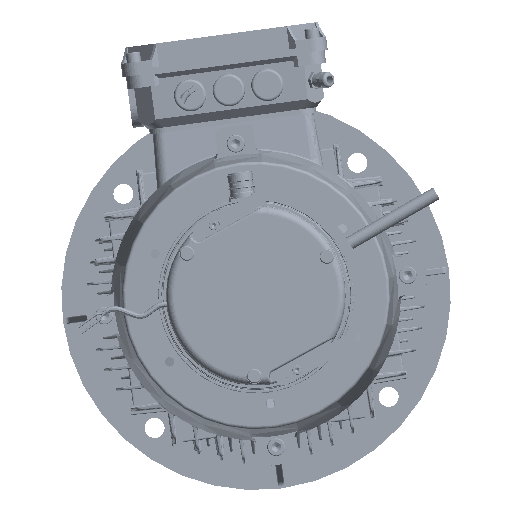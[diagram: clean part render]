
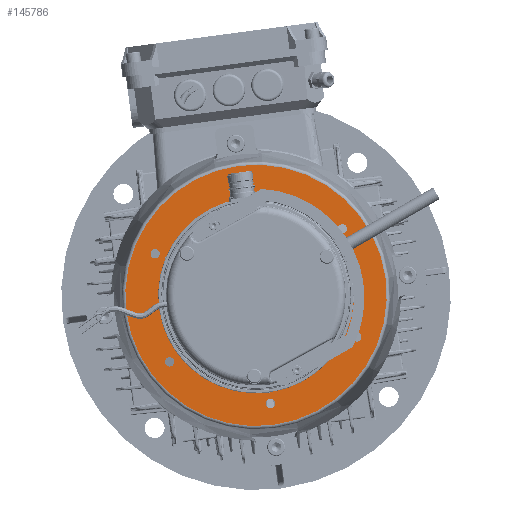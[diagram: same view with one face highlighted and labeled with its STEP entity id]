
A CAD part, front view. The second image highlights one B-rep face of the part: STEP entity #145786.
In plain terms, the highlighted planar face has unit normal (0, -1, 0).
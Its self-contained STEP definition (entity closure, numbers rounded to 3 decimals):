
#12725=FACE_BOUND('',#40017,.T.);
#12726=FACE_BOUND('',#40018,.T.);
#12727=FACE_BOUND('',#40019,.T.);
#12728=FACE_BOUND('',#40020,.T.);
#12729=FACE_BOUND('',#40021,.T.);
#12730=FACE_BOUND('',#40022,.T.);
#12731=FACE_BOUND('',#40023,.T.);
#14454=LINE('',#212061,#22704);
#22704=VECTOR('',#171720,10.);
#31205=FACE_OUTER_BOUND('',#40016,.T.);
#40016=EDGE_LOOP('',(#98062));
#40017=EDGE_LOOP('',(#98063));
#40018=EDGE_LOOP('',(#98064));
#40019=EDGE_LOOP('',(#98065));
#40020=EDGE_LOOP('',(#98066));
#40021=EDGE_LOOP('',(#98067));
#40022=EDGE_LOOP('',(#98068));
#40023=EDGE_LOOP('',(#98069,#98070,#98071,#98072,#98073,#98074,#98075,#98076));
#48887=CIRCLE('',#155788,87.5);
#48888=CIRCLE('',#155789,87.5);
#48889=CIRCLE('',#155790,87.5);
#48890=CIRCLE('',#155791,87.5);
#48905=CIRCLE('',#155816,117.419);
#48906=CIRCLE('',#155817,4.188);
#48907=CIRCLE('',#155818,4.188);
#48908=CIRCLE('',#155819,4.188);
#48909=CIRCLE('',#155820,4.188);
#48910=CIRCLE('',#155821,4.188);
#48911=CIRCLE('',#155822,4.188);
#48912=CIRCLE('',#155823,3.324);
#48913=CIRCLE('',#155824,3.324);
#48914=CIRCLE('',#155825,3.324);
#55696=VERTEX_POINT('',#212056);
#55697=VERTEX_POINT('',#212060);
#56807=VERTEX_POINT('',#282175);
#56810=VERTEX_POINT('',#282180);
#56812=VERTEX_POINT('',#282185);
#56813=VERTEX_POINT('',#282187);
#56815=VERTEX_POINT('',#282193);
#56818=VERTEX_POINT('',#282198);
#56838=VERTEX_POINT('',#282412);
#56839=VERTEX_POINT('',#282414);
#56840=VERTEX_POINT('',#282416);
#56841=VERTEX_POINT('',#282418);
#56842=VERTEX_POINT('',#282420);
#56843=VERTEX_POINT('',#282422);
#56844=VERTEX_POINT('',#282424);
#70054=EDGE_CURVE('',#55697,#55696,#14454,.T.);
#71824=EDGE_CURVE('',#56813,#55697,#48887,.T.);
#71825=EDGE_CURVE('',#56815,#56812,#48888,.T.);
#71826=EDGE_CURVE('',#56807,#56818,#48889,.T.);
#71827=EDGE_CURVE('',#55696,#56810,#48890,.T.);
#71847=EDGE_CURVE('',#56838,#56838,#48905,.T.);
#71848=EDGE_CURVE('',#56839,#56839,#48906,.T.);
#71849=EDGE_CURVE('',#56840,#56840,#48907,.T.);
#71850=EDGE_CURVE('',#56841,#56841,#48908,.T.);
#71851=EDGE_CURVE('',#56842,#56842,#48909,.T.);
#71852=EDGE_CURVE('',#56843,#56843,#48910,.T.);
#71853=EDGE_CURVE('',#56844,#56844,#48911,.T.);
#71854=EDGE_CURVE('',#56812,#56813,#48912,.T.);
#71855=EDGE_CURVE('',#56810,#56807,#48913,.T.);
#71856=EDGE_CURVE('',#56818,#56815,#48914,.T.);
#98062=ORIENTED_EDGE('',*,*,#71847,.F.);
#98063=ORIENTED_EDGE('',*,*,#71848,.T.);
#98064=ORIENTED_EDGE('',*,*,#71849,.T.);
#98065=ORIENTED_EDGE('',*,*,#71850,.T.);
#98066=ORIENTED_EDGE('',*,*,#71851,.T.);
#98067=ORIENTED_EDGE('',*,*,#71852,.T.);
#98068=ORIENTED_EDGE('',*,*,#71853,.T.);
#98069=ORIENTED_EDGE('',*,*,#71825,.T.);
#98070=ORIENTED_EDGE('',*,*,#71854,.T.);
#98071=ORIENTED_EDGE('',*,*,#71824,.T.);
#98072=ORIENTED_EDGE('',*,*,#70054,.T.);
#98073=ORIENTED_EDGE('',*,*,#71827,.T.);
#98074=ORIENTED_EDGE('',*,*,#71855,.T.);
#98075=ORIENTED_EDGE('',*,*,#71826,.T.);
#98076=ORIENTED_EDGE('',*,*,#71856,.T.);
#133202=PLANE('',#155815);
#145786=ADVANCED_FACE('',(#31205,#12725,#12726,#12727,#12728,#12729,#12730,
#12731),#133202,.T.);
#155788=AXIS2_PLACEMENT_3D('',#282372,#174808,#174809);
#155789=AXIS2_PLACEMENT_3D('',#282373,#174810,#174811);
#155790=AXIS2_PLACEMENT_3D('',#282374,#174812,#174813);
#155791=AXIS2_PLACEMENT_3D('',#282375,#174814,#174815);
#155815=AXIS2_PLACEMENT_3D('',#282411,#174867,#174868);
#155816=AXIS2_PLACEMENT_3D('',#282413,#174869,#174870);
#155817=AXIS2_PLACEMENT_3D('',#282415,#174871,#174872);
#155818=AXIS2_PLACEMENT_3D('',#282417,#174873,#174874);
#155819=AXIS2_PLACEMENT_3D('',#282419,#174875,#174876);
#155820=AXIS2_PLACEMENT_3D('',#282421,#174877,#174878);
#155821=AXIS2_PLACEMENT_3D('',#282423,#174879,#174880);
#155822=AXIS2_PLACEMENT_3D('',#282425,#174881,#174882);
#155823=AXIS2_PLACEMENT_3D('',#282426,#174883,#174884);
#155824=AXIS2_PLACEMENT_3D('',#282427,#174885,#174886);
#155825=AXIS2_PLACEMENT_3D('',#282428,#174887,#174888);
#171720=DIRECTION('',(0.991,0.,0.132));
#174808=DIRECTION('center_axis',(0.,1.,0.));
#174809=DIRECTION('ref_axis',(0.132,0.,-0.991));
#174810=DIRECTION('center_axis',(0.,1.,0.));
#174811=DIRECTION('ref_axis',(0.132,0.,-0.991));
#174812=DIRECTION('center_axis',(0.,1.,0.));
#174813=DIRECTION('ref_axis',(0.132,0.,-0.991));
#174814=DIRECTION('center_axis',(0.,1.,0.));
#174815=DIRECTION('ref_axis',(0.132,0.,-0.991));
#174867=DIRECTION('center_axis',(0.,-1.,0.));
#174868=DIRECTION('ref_axis',(0.132,0.,-0.991));
#174869=DIRECTION('center_axis',(0.,1.,0.));
#174870=DIRECTION('ref_axis',(-0.991,0.,-0.132));
#174871=DIRECTION('center_axis',(0.,1.,0.));
#174872=DIRECTION('ref_axis',(0.924,0.,-0.381));
#174873=DIRECTION('center_axis',(0.,1.,0.));
#174874=DIRECTION('ref_axis',(0.792,0.,0.61));
#174875=DIRECTION('center_axis',(0.,1.,0.));
#174876=DIRECTION('ref_axis',(-0.132,0.,
0.991));
#174877=DIRECTION('center_axis',(0.,1.,0.));
#174878=DIRECTION('ref_axis',(-0.924,0.,0.381));
#174879=DIRECTION('center_axis',(0.,1.,0.));
#174880=DIRECTION('ref_axis',(-0.792,0.,-0.61));
#174881=DIRECTION('center_axis',(0.,1.,0.));
#174882=DIRECTION('ref_axis',(0.132,0.,-0.991));
#174883=DIRECTION('center_axis',(0.,1.,0.));
#174884=DIRECTION('ref_axis',(-0.924,0.,0.381));
#174885=DIRECTION('center_axis',(0.,1.,0.));
#174886=DIRECTION('ref_axis',(0.792,0.,0.61));
#174887=DIRECTION('center_axis',(0.,1.,0.));
#174888=DIRECTION('ref_axis',(0.132,0.,-0.991));
#212056=CARTESIAN_POINT('',(1.661,-258.885,87.484));
#212060=CARTESIAN_POINT('',(-24.49,-258.885,84.003));
#212061=CARTESIAN_POINT('',(48.061,-258.885,93.661));
#282175=CARTESIAN_POINT('',(70.674,-258.885,51.589));
#282180=CARTESIAN_POINT('',(67.964,-258.885,55.11));
#282185=CARTESIAN_POINT('',(-81.709,-258.885,31.303));
#282187=CARTESIAN_POINT('',(-80.014,-258.885,35.411));
#282193=CARTESIAN_POINT('',(9.34,-258.885,-87.));
#282198=CARTESIAN_POINT('',(13.745,-258.885,-86.414));
#282372=CARTESIAN_POINT('Origin',(0.,-258.885,
0.));
#282373=CARTESIAN_POINT('Origin',(0.,-258.885,
0.));
#282374=CARTESIAN_POINT('Origin',(0.,-258.885,
0.));
#282375=CARTESIAN_POINT('Origin',(0.,-258.885,
0.));
#282411=CARTESIAN_POINT('Origin',(118.951,-258.885,15.835));
#282412=CARTESIAN_POINT('',(15.495,-258.885,-116.392));
#282413=CARTESIAN_POINT('Origin',(0.,-258.885,
0.));
#282414=CARTESIAN_POINT('',(86.723,-258.885,-35.775));
#282415=CARTESIAN_POINT('Origin',(90.594,-258.885,-37.372));
#282416=CARTESIAN_POINT('',(74.343,-258.885,57.217));
#282417=CARTESIAN_POINT('Origin',(77.662,-258.885,59.771));
#282418=CARTESIAN_POINT('',(-12.379,-258.885,92.992));
#282419=CARTESIAN_POINT('Origin',(-12.932,-258.885,97.143));
#282420=CARTESIAN_POINT('',(-86.723,-258.885,35.775));
#282421=CARTESIAN_POINT('Origin',(-90.594,-258.885,37.372));
#282422=CARTESIAN_POINT('',(-74.343,-258.885,-57.217));
#282423=CARTESIAN_POINT('Origin',(-77.662,-258.885,-59.771));
#282424=CARTESIAN_POINT('',(12.379,-258.885,-92.992));
#282425=CARTESIAN_POINT('Origin',(12.932,-258.885,-97.143));
#282426=CARTESIAN_POINT('Origin',(-78.577,-258.885,32.415));
#282427=CARTESIAN_POINT('Origin',(67.36,-258.885,51.842));
#282428=CARTESIAN_POINT('Origin',(11.217,-258.885,-84.257));
